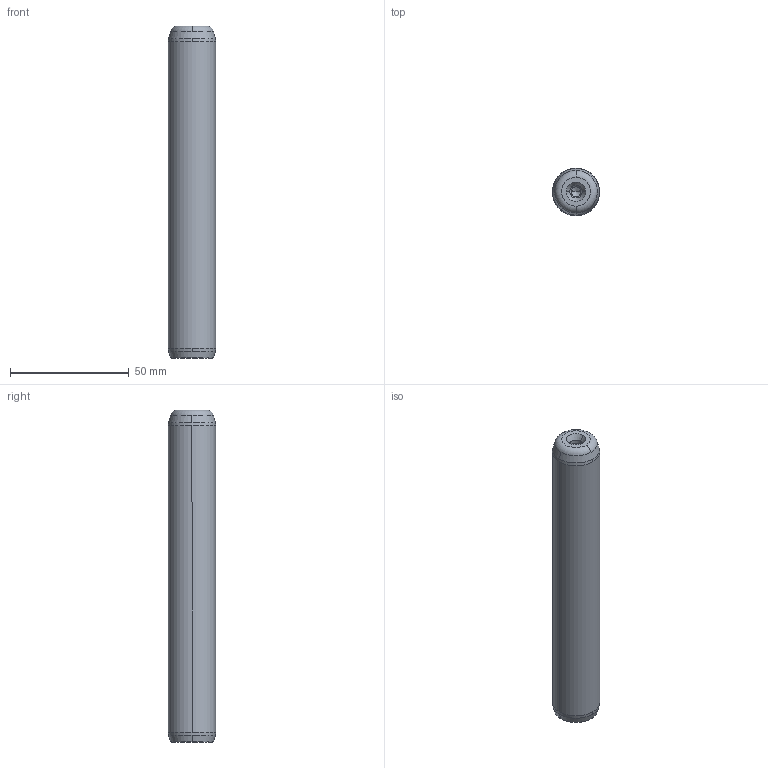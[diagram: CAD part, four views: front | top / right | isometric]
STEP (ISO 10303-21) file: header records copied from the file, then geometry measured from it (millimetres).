
FILE_DESCRIPTION((''),'2;1');
FILE_NAME('P10_020_140.stp','2008-12-23T14:28:57',(''),(''),'Mechanical Desktop 2009','Mechanical Desktop 2009',', , ');
FILE_SCHEMA(('CONFIG_CONTROL_DESIGN'));
Length unit declared in the file: millimetre
Products named in the file (5): Product; ProductAA; blmdl1; ProductA; blmdl1A
Assembly tree (2 placements, depth 3):
  Product
    ProductAA
      blmdl1
  ProductA
  blmdl1A
Bounding box: 20 x 20 x 140 mm (x, y, z)
Volume: 43232.1 mm3; surface area: 9436.9 mm2
Topology: 1 solids, 1 shells, 26 faces, 66 edges, 41 vertices
Faces by surface type: cone 10, cylinder 6, torus 4, bspline 4, plane 2
Entity records: 1172 total; most frequent: CARTESIAN_POINT 310, DIRECTION 162, ORIENTED_EDGE 128, AXIS2_PLACEMENT_3D 73, EDGE_CURVE 64, CIRCLE 48, VERTEX_POINT 41, EDGE_LOOP 27
